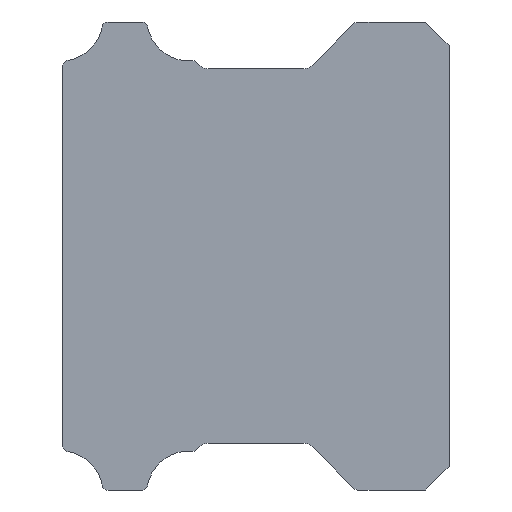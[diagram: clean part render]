
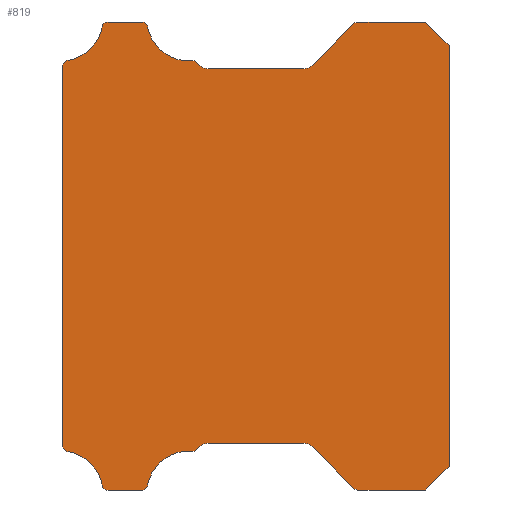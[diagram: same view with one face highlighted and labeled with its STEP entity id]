
A CAD part, left-side view. The second image highlights one B-rep face of the part: STEP entity #819.
In plain terms, the highlighted planar face has unit normal (-1, 0, 0).
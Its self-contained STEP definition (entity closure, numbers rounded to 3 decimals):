
#50=CIRCLE('',#855,0.25);
#52=CIRCLE('',#859,0.5);
#54=CIRCLE('',#863,0.5);
#56=CIRCLE('',#867,0.2);
#58=CIRCLE('',#870,1.802);
#60=CIRCLE('',#873,0.2);
#62=CIRCLE('',#877,0.2);
#64=CIRCLE('',#880,1.802);
#66=CIRCLE('',#883,0.2);
#72=CIRCLE('',#891,0.2);
#74=CIRCLE('',#894,1.802);
#76=CIRCLE('',#897,0.2);
#78=CIRCLE('',#901,0.2);
#80=CIRCLE('',#904,1.802);
#82=CIRCLE('',#907,0.2);
#84=CIRCLE('',#911,0.5);
#86=CIRCLE('',#915,0.5);
#88=CIRCLE('',#919,0.25);
#266=ORIENTED_EDGE('',*,*,#322,.F.);
#267=ORIENTED_EDGE('',*,*,#424,.F.);
#268=ORIENTED_EDGE('',*,*,#421,.F.);
#269=ORIENTED_EDGE('',*,*,#418,.T.);
#270=ORIENTED_EDGE('',*,*,#415,.F.);
#271=ORIENTED_EDGE('',*,*,#412,.T.);
#272=ORIENTED_EDGE('',*,*,#409,.F.);
#273=ORIENTED_EDGE('',*,*,#406,.F.);
#274=ORIENTED_EDGE('',*,*,#403,.T.);
#275=ORIENTED_EDGE('',*,*,#400,.F.);
#276=ORIENTED_EDGE('',*,*,#397,.F.);
#277=ORIENTED_EDGE('',*,*,#394,.F.);
#278=ORIENTED_EDGE('',*,*,#391,.T.);
#279=ORIENTED_EDGE('',*,*,#388,.F.);
#280=ORIENTED_EDGE('',*,*,#385,.F.);
#281=ORIENTED_EDGE('',*,*,#378,.F.);
#282=ORIENTED_EDGE('',*,*,#375,.T.);
#283=ORIENTED_EDGE('',*,*,#372,.F.);
#284=ORIENTED_EDGE('',*,*,#369,.F.);
#285=ORIENTED_EDGE('',*,*,#366,.F.);
#286=ORIENTED_EDGE('',*,*,#363,.T.);
#287=ORIENTED_EDGE('',*,*,#360,.F.);
#288=ORIENTED_EDGE('',*,*,#357,.F.);
#289=ORIENTED_EDGE('',*,*,#354,.T.);
#290=ORIENTED_EDGE('',*,*,#351,.F.);
#291=ORIENTED_EDGE('',*,*,#348,.T.);
#292=ORIENTED_EDGE('',*,*,#345,.F.);
#293=ORIENTED_EDGE('',*,*,#342,.F.);
#294=ORIENTED_EDGE('',*,*,#339,.F.);
#295=ORIENTED_EDGE('',*,*,#336,.F.);
#296=ORIENTED_EDGE('',*,*,#333,.F.);
#297=ORIENTED_EDGE('',*,*,#326,.F.);
#322=EDGE_CURVE('',#434,#435,#514,.T.);
#326=EDGE_CURVE('',#435,#438,#518,.T.);
#333=EDGE_CURVE('',#438,#444,#521,.T.);
#336=EDGE_CURVE('',#444,#446,#524,.T.);
#339=EDGE_CURVE('',#446,#448,#527,.T.);
#342=EDGE_CURVE('',#448,#450,#50,.T.);
#345=EDGE_CURVE('',#450,#452,#531,.T.);
#348=EDGE_CURVE('',#454,#452,#52,.T.);
#351=EDGE_CURVE('',#454,#456,#535,.T.);
#354=EDGE_CURVE('',#458,#456,#54,.T.);
#357=EDGE_CURVE('',#458,#460,#539,.T.);
#360=EDGE_CURVE('',#460,#462,#56,.T.);
#363=EDGE_CURVE('',#464,#462,#58,.T.);
#366=EDGE_CURVE('',#464,#466,#60,.T.);
#369=EDGE_CURVE('',#466,#468,#545,.T.);
#372=EDGE_CURVE('',#468,#470,#62,.T.);
#375=EDGE_CURVE('',#472,#470,#64,.T.);
#378=EDGE_CURVE('',#472,#474,#66,.T.);
#385=EDGE_CURVE('',#474,#480,#551,.T.);
#388=EDGE_CURVE('',#480,#482,#72,.T.);
#391=EDGE_CURVE('',#484,#482,#74,.T.);
#394=EDGE_CURVE('',#484,#486,#76,.T.);
#397=EDGE_CURVE('',#486,#488,#557,.T.);
#400=EDGE_CURVE('',#488,#490,#78,.T.);
#403=EDGE_CURVE('',#492,#490,#80,.T.);
#406=EDGE_CURVE('',#492,#494,#82,.T.);
#409=EDGE_CURVE('',#494,#496,#563,.T.);
#412=EDGE_CURVE('',#498,#496,#84,.T.);
#415=EDGE_CURVE('',#498,#500,#567,.T.);
#418=EDGE_CURVE('',#502,#500,#86,.T.);
#421=EDGE_CURVE('',#502,#504,#571,.T.);
#424=EDGE_CURVE('',#504,#434,#88,.T.);
#434=VERTEX_POINT('',#1204);
#435=VERTEX_POINT('',#1205);
#438=VERTEX_POINT('',#1213);
#444=VERTEX_POINT('',#1227);
#446=VERTEX_POINT('',#1233);
#448=VERTEX_POINT('',#1239);
#450=VERTEX_POINT('',#1245);
#452=VERTEX_POINT('',#1251);
#454=VERTEX_POINT('',#1257);
#456=VERTEX_POINT('',#1263);
#458=VERTEX_POINT('',#1269);
#460=VERTEX_POINT('',#1275);
#462=VERTEX_POINT('',#1281);
#464=VERTEX_POINT('',#1287);
#466=VERTEX_POINT('',#1293);
#468=VERTEX_POINT('',#1299);
#470=VERTEX_POINT('',#1305);
#472=VERTEX_POINT('',#1311);
#474=VERTEX_POINT('',#1317);
#480=VERTEX_POINT('',#1331);
#482=VERTEX_POINT('',#1337);
#484=VERTEX_POINT('',#1343);
#486=VERTEX_POINT('',#1349);
#488=VERTEX_POINT('',#1355);
#490=VERTEX_POINT('',#1361);
#492=VERTEX_POINT('',#1367);
#494=VERTEX_POINT('',#1373);
#496=VERTEX_POINT('',#1379);
#498=VERTEX_POINT('',#1385);
#500=VERTEX_POINT('',#1391);
#502=VERTEX_POINT('',#1397);
#504=VERTEX_POINT('',#1403);
#514=LINE('',#1203,#574);
#518=LINE('',#1212,#578);
#521=LINE('',#1226,#581);
#524=LINE('',#1232,#584);
#527=LINE('',#1238,#587);
#531=LINE('',#1250,#591);
#535=LINE('',#1262,#595);
#539=LINE('',#1274,#599);
#545=LINE('',#1298,#605);
#551=LINE('',#1330,#611);
#557=LINE('',#1354,#617);
#563=LINE('',#1378,#623);
#567=LINE('',#1390,#627);
#571=LINE('',#1402,#631);
#574=VECTOR('',#947,1000.);
#578=VECTOR('',#953,1000.);
#581=VECTOR('',#966,1000.);
#584=VECTOR('',#971,1000.);
#587=VECTOR('',#976,1000.);
#591=VECTOR('',#988,1000.);
#595=VECTOR('',#1000,1000.);
#599=VECTOR('',#1012,1000.);
#605=VECTOR('',#1038,1000.);
#611=VECTOR('',#1072,1000.);
#617=VECTOR('',#1098,1000.);
#623=VECTOR('',#1124,1000.);
#627=VECTOR('',#1136,1000.);
#631=VECTOR('',#1148,1000.);
#675=EDGE_LOOP('',(#266,#267,#268,#269,#270,#271,#272,#273,#274,#275,#276,
#277,#278,#279,#280,#281,#282,#283,#284,#285,#286,#287,#288,#289,#290,#291,
#292,#293,#294,#295,#296,#297));
#741=FACE_BOUND('',#675,.T.);
#781=PLANE('',#922);
#819=ADVANCED_FACE('',(#741),#781,.F.);
#855=AXIS2_PLACEMENT_3D('',#1244,#981,#982);
#859=AXIS2_PLACEMENT_3D('',#1256,#993,#994);
#863=AXIS2_PLACEMENT_3D('',#1268,#1005,#1006);
#867=AXIS2_PLACEMENT_3D('',#1280,#1017,#1018);
#870=AXIS2_PLACEMENT_3D('',#1286,#1024,#1025);
#873=AXIS2_PLACEMENT_3D('',#1292,#1031,#1032);
#877=AXIS2_PLACEMENT_3D('',#1304,#1043,#1044);
#880=AXIS2_PLACEMENT_3D('',#1310,#1050,#1051);
#883=AXIS2_PLACEMENT_3D('',#1316,#1057,#1058);
#891=AXIS2_PLACEMENT_3D('',#1336,#1077,#1078);
#894=AXIS2_PLACEMENT_3D('',#1342,#1084,#1085);
#897=AXIS2_PLACEMENT_3D('',#1348,#1091,#1092);
#901=AXIS2_PLACEMENT_3D('',#1360,#1103,#1104);
#904=AXIS2_PLACEMENT_3D('',#1366,#1110,#1111);
#907=AXIS2_PLACEMENT_3D('',#1372,#1117,#1118);
#911=AXIS2_PLACEMENT_3D('',#1384,#1129,#1130);
#915=AXIS2_PLACEMENT_3D('',#1396,#1141,#1142);
#919=AXIS2_PLACEMENT_3D('',#1408,#1153,#1154);
#922=AXIS2_PLACEMENT_3D('',#1411,#1159,#1160);
#947=DIRECTION('',(0.,-1.,0.));
#953=DIRECTION('',(0.,-0.707,-0.707));
#966=DIRECTION('',(0.,0.,-1.));
#971=DIRECTION('',(0.,0.707,-0.707));
#976=DIRECTION('',(0.,1.,0.));
#981=DIRECTION('',(1.,0.,0.));
#982=DIRECTION('',(0.,0.,-1.));
#988=DIRECTION('',(0.,0.707,0.707));
#993=DIRECTION('',(1.,0.,0.));
#994=DIRECTION('',(0.,0.,-1.));
#1000=DIRECTION('',(0.,1.,0.));
#1005=DIRECTION('',(1.,0.,0.));
#1006=DIRECTION('',(0.,0.,-1.));
#1012=DIRECTION('',(0.,0.705,-0.709));
#1017=DIRECTION('',(1.,0.,0.));
#1018=DIRECTION('',(0.,0.,-1.));
#1024=DIRECTION('',(1.,0.,0.));
#1025=DIRECTION('',(0.,0.,-1.));
#1031=DIRECTION('',(1.,0.,0.));
#1032=DIRECTION('',(0.,0.,-1.));
#1038=DIRECTION('',(0.,1.,0.));
#1043=DIRECTION('',(1.,0.,0.));
#1044=DIRECTION('',(0.,0.,-1.));
#1050=DIRECTION('',(1.,0.,0.));
#1051=DIRECTION('',(0.,0.,-1.));
#1057=DIRECTION('',(1.,0.,0.));
#1058=DIRECTION('',(0.,0.,-1.));
#1072=DIRECTION('',(0.,0.,1.));
#1077=DIRECTION('',(1.,0.,0.));
#1078=DIRECTION('',(0.,0.,-1.));
#1084=DIRECTION('',(1.,0.,0.));
#1085=DIRECTION('',(0.,0.,-1.));
#1091=DIRECTION('',(1.,0.,0.));
#1092=DIRECTION('',(0.,0.,-1.));
#1098=DIRECTION('',(0.,-1.,0.));
#1103=DIRECTION('',(1.,0.,0.));
#1104=DIRECTION('',(0.,0.,-1.));
#1110=DIRECTION('',(1.,0.,0.));
#1111=DIRECTION('',(0.,0.,-1.));
#1117=DIRECTION('',(1.,0.,0.));
#1118=DIRECTION('',(0.,0.,-1.));
#1124=DIRECTION('',(0.,-0.705,-0.709));
#1129=DIRECTION('',(1.,0.,0.));
#1130=DIRECTION('',(0.,0.,-1.));
#1136=DIRECTION('',(0.,-1.,0.));
#1141=DIRECTION('',(1.,0.,0.));
#1142=DIRECTION('',(0.,0.,-1.));
#1148=DIRECTION('',(0.,-0.707,0.707));
#1153=DIRECTION('',(1.,0.,0.));
#1154=DIRECTION('',(0.,0.,-1.));
#1159=DIRECTION('',(1.,0.,0.));
#1160=DIRECTION('',(0.,0.,-1.));
#1203=CARTESIAN_POINT('',(-20.,3.896,10.));
#1204=CARTESIAN_POINT('',(-20.,3.896,10.));
#1205=CARTESIAN_POINT('',(-20.,1.,10.));
#1212=CARTESIAN_POINT('',(-20.,1.,10.));
#1213=CARTESIAN_POINT('',(-20.,0.,9.));
#1226=CARTESIAN_POINT('',(-20.,0.,9.));
#1227=CARTESIAN_POINT('',(-20.,0.,-9.));
#1232=CARTESIAN_POINT('',(-20.,0.,-9.));
#1233=CARTESIAN_POINT('',(-20.,1.,-10.));
#1238=CARTESIAN_POINT('',(-20.,1.,-10.));
#1239=CARTESIAN_POINT('',(-20.,3.896,-10.));
#1244=CARTESIAN_POINT('',(-20.,3.896,-9.75));
#1245=CARTESIAN_POINT('',(-20.,4.073,-9.927));
#1250=CARTESIAN_POINT('',(-20.,4.073,-9.927));
#1251=CARTESIAN_POINT('',(-20.,5.853,-8.146));
#1256=CARTESIAN_POINT('',(-20.,6.207,-8.5));
#1257=CARTESIAN_POINT('',(-20.,6.207,-8.));
#1262=CARTESIAN_POINT('',(-20.,6.207,-8.));
#1263=CARTESIAN_POINT('',(-20.,10.293,-8.));
#1268=CARTESIAN_POINT('',(-20.,10.293,-8.5));
#1269=CARTESIAN_POINT('',(-20.,10.646,-8.146));
#1274=CARTESIAN_POINT('',(-20.,10.646,-8.146));
#1275=CARTESIAN_POINT('',(-20.,10.784,-8.285));
#1280=CARTESIAN_POINT('',(-20.,10.926,-8.144));
#1281=CARTESIAN_POINT('',(-20.,10.945,-8.343));
#1286=CARTESIAN_POINT('',(-20.,11.116,-10.137));
#1287=CARTESIAN_POINT('',(-20.,12.892,-9.834));
#1292=CARTESIAN_POINT('',(-20.,13.089,-9.8));
#1293=CARTESIAN_POINT('',(-20.,13.089,-10.));
#1298=CARTESIAN_POINT('',(-20.,13.089,-10.));
#1299=CARTESIAN_POINT('',(-20.,14.618,-10.));
#1304=CARTESIAN_POINT('',(-20.,14.618,-9.8));
#1305=CARTESIAN_POINT('',(-20.,14.815,-9.834));
#1310=CARTESIAN_POINT('',(-20.,16.591,-10.137));
#1311=CARTESIAN_POINT('',(-20.,16.329,-8.354));
#1316=CARTESIAN_POINT('',(-20.,16.3,-8.156));
#1317=CARTESIAN_POINT('',(-20.,16.5,-8.156));
#1330=CARTESIAN_POINT('',(-20.,16.5,-8.156));
#1331=CARTESIAN_POINT('',(-20.,16.5,8.156));
#1336=CARTESIAN_POINT('',(-20.,16.3,8.156));
#1337=CARTESIAN_POINT('',(-20.,16.329,8.354));
#1342=CARTESIAN_POINT('',(-20.,16.591,10.137));
#1343=CARTESIAN_POINT('',(-20.,14.815,9.834));
#1348=CARTESIAN_POINT('',(-20.,14.618,9.8));
#1349=CARTESIAN_POINT('',(-20.,14.618,10.));
#1354=CARTESIAN_POINT('',(-20.,14.618,10.));
#1355=CARTESIAN_POINT('',(-20.,13.089,10.));
#1360=CARTESIAN_POINT('',(-20.,13.089,9.8));
#1361=CARTESIAN_POINT('',(-20.,12.892,9.834));
#1366=CARTESIAN_POINT('',(-20.,11.116,10.137));
#1367=CARTESIAN_POINT('',(-20.,10.945,8.343));
#1372=CARTESIAN_POINT('',(-20.,10.926,8.144));
#1373=CARTESIAN_POINT('',(-20.,10.784,8.285));
#1378=CARTESIAN_POINT('',(-20.,10.784,8.285));
#1379=CARTESIAN_POINT('',(-20.,10.646,8.146));
#1384=CARTESIAN_POINT('',(-20.,10.293,8.5));
#1385=CARTESIAN_POINT('',(-20.,10.293,8.));
#1390=CARTESIAN_POINT('',(-20.,10.293,8.));
#1391=CARTESIAN_POINT('',(-20.,6.207,8.));
#1396=CARTESIAN_POINT('',(-20.,6.207,8.5));
#1397=CARTESIAN_POINT('',(-20.,5.853,8.146));
#1402=CARTESIAN_POINT('',(-20.,5.853,8.146));
#1403=CARTESIAN_POINT('',(-20.,4.073,9.927));
#1408=CARTESIAN_POINT('',(-20.,3.896,9.75));
#1411=CARTESIAN_POINT('',(-20.,3.896,-9.75));
